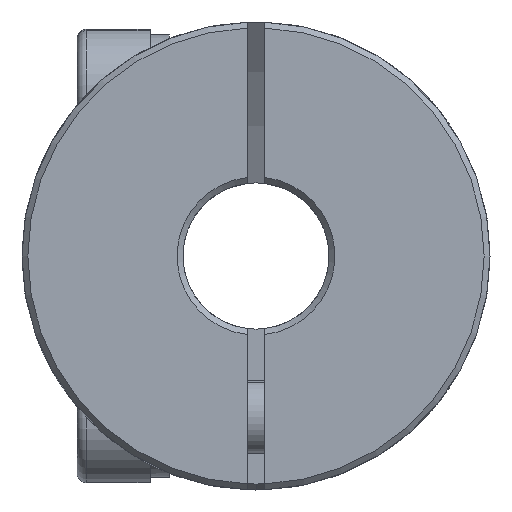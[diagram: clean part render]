
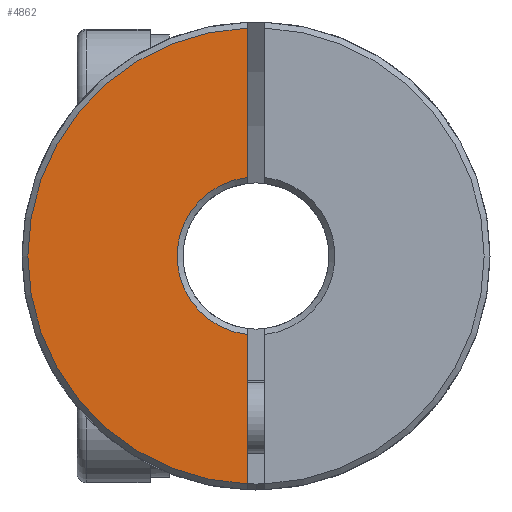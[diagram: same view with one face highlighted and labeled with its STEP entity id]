
A CAD part, front view. The second image highlights one B-rep face of the part: STEP entity #4862.
In plain terms, the highlighted planar face has unit normal (0, -1, 0).
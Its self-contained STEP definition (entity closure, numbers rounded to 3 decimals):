
#141 = ORIENTED_EDGE ( 'NONE', *, *, #5913, .F. ) ;
#183 = CIRCLE ( 'NONE', #5195, 2.7 ) ;
#368 = VERTEX_POINT ( 'NONE', #6526 ) ;
#528 = VERTEX_POINT ( 'NONE', #3959 ) ;
#551 = EDGE_CURVE ( 'NONE', #4313, #528, #7421, .T. ) ;
#600 = AXIS2_PLACEMENT_3D ( 'NONE', #3469, #7603, #2868 ) ;
#798 = LINE ( 'NONE', #5804, #4014 ) ;
#800 = EDGE_CURVE ( 'NONE', #368, #528, #6768, .T. ) ;
#806 = CARTESIAN_POINT ( 'NONE',  ( 0., -15.02, 0. ) ) ;
#830 = DIRECTION ( 'NONE',  ( 0., 1., 0. ) ) ;
#2010 = PLANE ( 'NONE',  #7446 ) ;
#2032 = CARTESIAN_POINT ( 'NONE',  ( 0., -15.02, 0. ) ) ;
#2562 = ORIENTED_EDGE ( 'NONE', *, *, #551, .F. ) ;
#2778 = EDGE_CURVE ( 'NONE', #4313, #7565, #183, .T. ) ;
#2868 = DIRECTION ( 'NONE',  ( 0., 0., 1. ) ) ;
#3330 = DIRECTION ( 'NONE',  ( 0., 0., -1. ) ) ;
#3387 = CARTESIAN_POINT ( 'NONE',  ( -0.3, -15.02, 0. ) ) ;
#3469 = CARTESIAN_POINT ( 'NONE',  ( 0., -15.02, 0. ) ) ;
#3959 = CARTESIAN_POINT ( 'NONE',  ( -0.3, -15.02, -7.794 ) ) ;
#4014 = VECTOR ( 'NONE', #4614, 1000. ) ;
#4313 = VERTEX_POINT ( 'NONE', #6091 ) ;
#4380 = DIRECTION ( 'NONE',  ( 0., 1., 0. ) ) ;
#4614 = DIRECTION ( 'NONE',  ( 0., 0., -1. ) ) ;
#4862 = ADVANCED_FACE ( 'NONE', ( #5790 ), #2010, .F. ) ;
#4908 = ORIENTED_EDGE ( 'NONE', *, *, #2778, .T. ) ;
#4958 = DIRECTION ( 'NONE',  ( 0., 0., 1. ) ) ;
#5195 = AXIS2_PLACEMENT_3D ( 'NONE', #806, #830, #4958 ) ;
#5684 = ORIENTED_EDGE ( 'NONE', *, *, #800, .T. ) ;
#5790 = FACE_OUTER_BOUND ( 'NONE', #7434, .T. ) ;
#5804 = CARTESIAN_POINT ( 'NONE',  ( -0.3, -15.02, 0. ) ) ;
#5913 = EDGE_CURVE ( 'NONE', #368, #7565, #798, .T. ) ;
#6091 = CARTESIAN_POINT ( 'NONE',  ( -0.3, -15.02, -2.683 ) ) ;
#6526 = CARTESIAN_POINT ( 'NONE',  ( -0.3, -15.02, 7.794 ) ) ;
#6768 = CIRCLE ( 'NONE', #600, 7.8 ) ;
#6934 = CARTESIAN_POINT ( 'NONE',  ( -0.3, -15.02, 2.683 ) ) ;
#7330 = VECTOR ( 'NONE', #3330, 1000. ) ;
#7351 = DIRECTION ( 'NONE',  ( 0., 0., 1. ) ) ;
#7421 = LINE ( 'NONE', #3387, #7330 ) ;
#7434 = EDGE_LOOP ( 'NONE', ( #141, #5684, #2562, #4908 ) ) ;
#7446 = AXIS2_PLACEMENT_3D ( 'NONE', #2032, #4380, #7351 ) ;
#7565 = VERTEX_POINT ( 'NONE', #6934 ) ;
#7603 = DIRECTION ( 'NONE',  ( 0., -1., 0. ) ) ;
